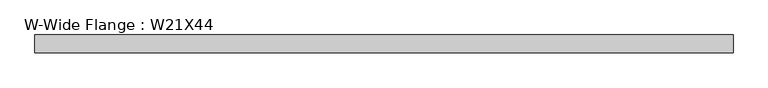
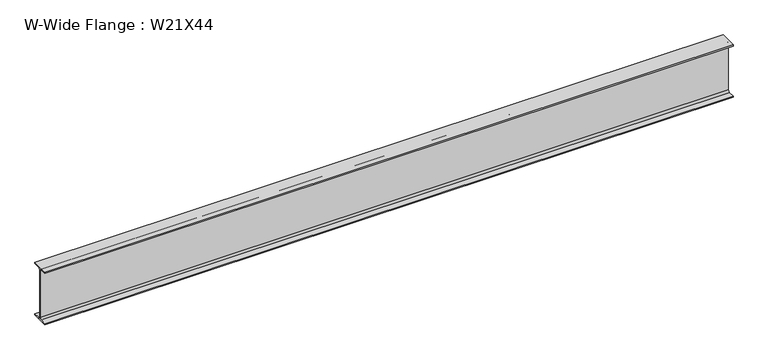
"""IFC4 building model written with IfcOpenShell, lengths in millimetres: beam geometry, W-Wide Flange : W21X44."""

from ifc_helpers import new_model, si_unit, point, frame, frame_2d, origin, place, context, project, spatial, polyline, circle_curve, trimmed, segment, composite_curve, outline, extrude, source, transform, mapped, element, save


def w_wide_flange_w21x44_c4d24364(model_context):
    return source(origin(), model_context, "Body", "SweptSolid", [
        extrude(outline(composite_curve([segment(polyline([(82.55, -251.46), (82.55, -262.89), (-82.55, -262.89), (-82.55, -251.46), (-21.59, -251.46)]), True, "CONTINUOUS"), segment(trimmed(circle_curve(frame_2d((-21.59, -234.315)), 17.145), [point((-21.59, -251.46))], [point((-4.445, -234.315))], True, "CARTESIAN"), True, "CONTINUOUS"), segment(polyline([(-4.445, -234.315), (-4.445, 234.315)]), True, "CONTINUOUS"), segment(trimmed(circle_curve(frame_2d((-21.59, 234.315)), 17.145), [point((-4.445, 234.315))], [point((-21.59, 251.46))], True, "CARTESIAN"), True, "CONTINUOUS"), segment(polyline([(-21.59, 251.46), (-82.55, 251.46), (-82.55, 262.89), (82.55, 262.89), (82.55, 251.46), (21.59, 251.46)]), True, "CONTINUOUS"), segment(trimmed(circle_curve(frame_2d((21.59, 234.315)), 17.145), [point((21.59, 251.46))], [point((4.445, 234.315))], True, "CARTESIAN"), True, "CONTINUOUS"), segment(polyline([(4.445, 234.315), (4.445, -234.315)]), True, "CONTINUOUS"), segment(trimmed(circle_curve(frame_2d((21.59, -234.315)), 17.145), [point((4.445, -234.315))], [point((21.59, -251.46))], True, "CARTESIAN"), True, "CONTINUOUS"), segment(polyline([(21.59, -251.46), (82.55, -251.46)]), True, "CONTINUOUS")], self_intersect=False)), frame((-3206.7003906, 0.0, 0.0), z_axis=(1.0, 0.0, 0.0), x_axis=(0.0, 1.0, 0.0)), (0.0, 0.0, 1.0), 6514.3836406),
    ])


if __name__ == "__main__":
    model = new_model("IFC4")
    model_context = context("Model", 3, world=origin())
    ifc_project = project(units=[si_unit("LENGTHUNIT", "METRE", prefix="MILLI")], contexts=[model_context])
    site = spatial("IfcSite", under=ifc_project)
    building = spatial("IfcBuilding", under=site)
    placement = place(None, origin())
    w_wide_flange_w21x44_shape = w_wide_flange_w21x44_c4d24364(model_context)
    element("IfcBeam", 1, ObjectType="W-Wide Flange : W21X44", at=placement, inside=building, context=model_context, shape_type="MappedRepresentation", body=[
        mapped(w_wide_flange_w21x44_shape, transform((0.0, 0.0, 0.0), x_axis=(1.0, 0.0, 0.0), y_axis=(0.0, 1.0, 0.0), z_axis=(0.0, 0.0, 1.0))),
    ])
    save(model, "model.ifc")
